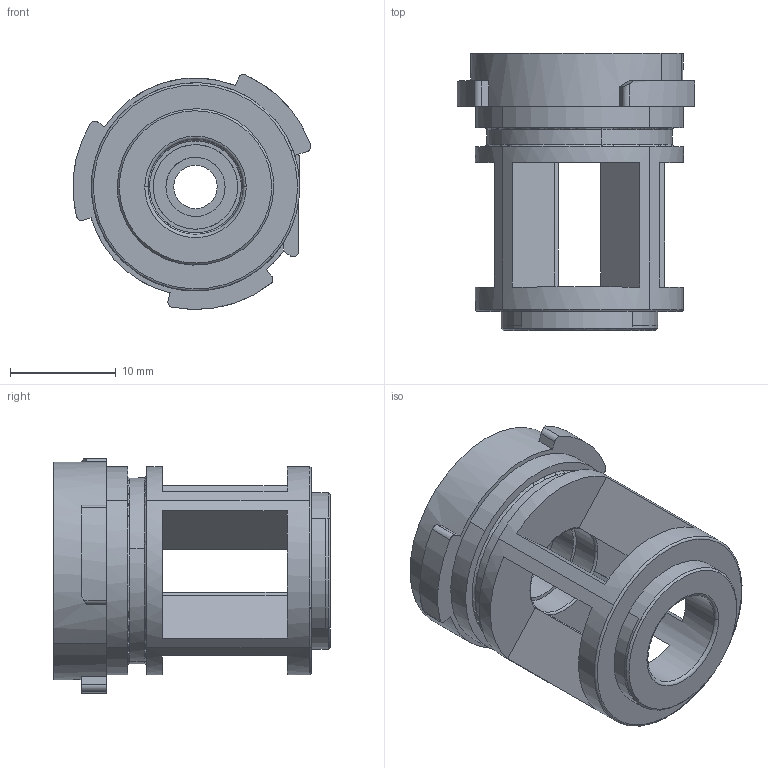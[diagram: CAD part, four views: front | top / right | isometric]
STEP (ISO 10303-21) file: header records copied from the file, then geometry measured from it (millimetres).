
FILE_DESCRIPTION(('CATIA V5 STEP Exchange'),'2;1');
FILE_NAME('F:\b.光华荣昌项目任务\3.0平台--H6\VDC阀\膜片式结构\阀体旋拧端盖.stp','2021-07-05T06:12:06+00:00',('none'),('none'),'CATIA Version 5 Release 20 GA (IN-10)','CATIA V5 STEP AP214','none');
FILE_SCHEMA(('AUTOMOTIVE_DESIGN { 1 0 10303 214 1 1 1 1 }'));
Length unit declared in the file: millimetre
Products named in the file (1): BPC0010139
Bounding box: 22.51 x 26.2 x 22.23 mm (x, y, z)
Volume: 3773.2 mm3; surface area: 3445.2 mm2
Topology: 1 solids, 1 shells, 133 faces, 365 edges, 239 vertices
Faces by surface type: cylinder 62, plane 50, torus 17, cone 4
Entity records: 4469 total; most frequent: CARTESIAN_POINT 1272, ORIENTED_EDGE 730, DIRECTION 520, EDGE_CURVE 365, AXIS2_PLACEMENT_3D 263, VERTEX_POINT 239, CIRCLE 155, VECTOR 151
